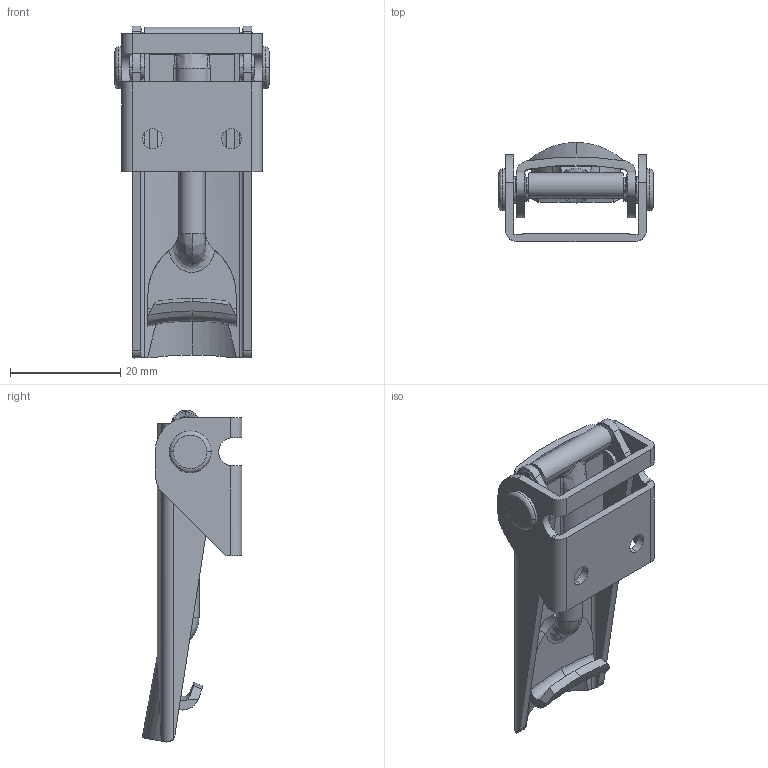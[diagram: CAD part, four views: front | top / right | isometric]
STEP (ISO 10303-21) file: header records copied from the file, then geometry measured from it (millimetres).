
FILE_DESCRIPTION (( 'STEP AP214' ), '1' );
FILE_NAME ('V951L03-1-1BP.STEP', '2016-05-31T07:39:42', ( '' ), ( '' ), 'SwSTEP 2.0', 'SolidWorks 2009', '' );
FILE_SCHEMA (( 'AUTOMOTIVE_DESIGN' ));
Length unit declared in the file: millimetre
Products named in the file (1): V951L03-1-1BP
Bounding box: 28 x 18.05 x 60.19 mm (x, y, z)
Volume: 6323.2 mm3; surface area: 8140 mm2
Topology: 1 solids, 1 shells, 257 faces, 707 edges, 446 vertices
Faces by surface type: cylinder 109, plane 85, bspline 49, cone 14
Entity records: 12079 total; most frequent: CARTESIAN_POINT 5889, ORIENTED_EDGE 1398, DIRECTION 1140, EDGE_CURVE 699, VERTEX_POINT 446, AXIS2_PLACEMENT_3D 432, EDGE_LOOP 285, VECTOR 276
